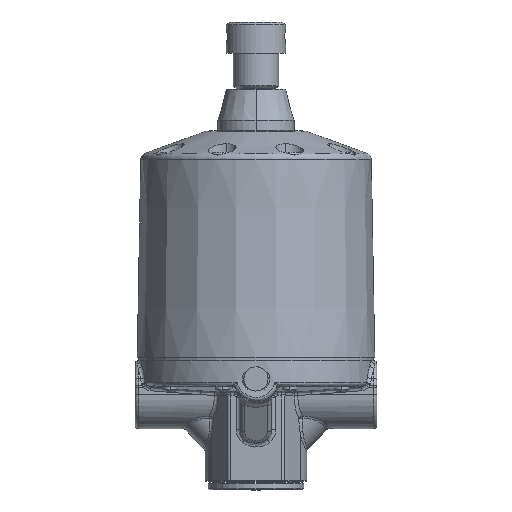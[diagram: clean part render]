
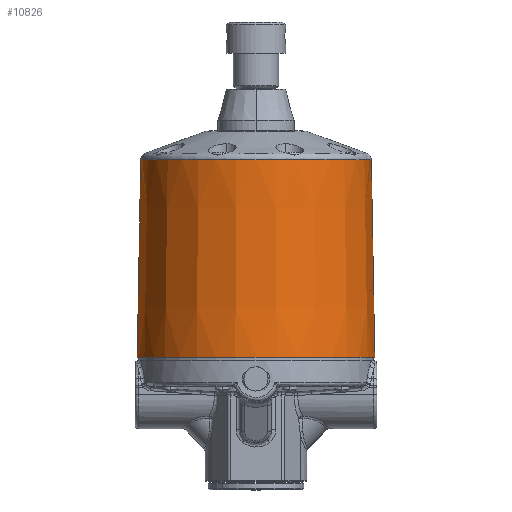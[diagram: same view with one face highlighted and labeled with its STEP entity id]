
A CAD part, top view. The second image highlights one B-rep face of the part: STEP entity #10826.
In plain terms, the highlighted conical face has half-angle 1 degrees and reference radius 41.347 mm.
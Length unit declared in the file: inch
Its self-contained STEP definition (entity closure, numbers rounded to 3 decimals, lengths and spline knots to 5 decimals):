
#9964=CARTESIAN_POINT('',(1.63233,2.84154,0.));
#9977=CARTESIAN_POINT('',(1.63009,2.96949,0.));
#9979=CARTESIAN_POINT('',(1.63009,2.96949,0.));
#9980=CARTESIAN_POINT('',(1.63009,2.96949,0.00623));
#9981=CARTESIAN_POINT('',(1.63005,2.96774,0.01815));
#9982=CARTESIAN_POINT('',(1.62991,2.96014,0.03499));
#9983=CARTESIAN_POINT('',(1.62975,2.94794,0.04903));
#9984=CARTESIAN_POINT('',(1.62968,2.9326,0.05893));
#9985=CARTESIAN_POINT('',(1.62979,2.91465,0.0642));
#9986=CARTESIAN_POINT('',(1.6301,2.89644,0.06421));
#9987=CARTESIAN_POINT('',(1.63062,2.87849,0.05896));
#9988=CARTESIAN_POINT('',(1.63123,2.86311,0.04905));
#9989=CARTESIAN_POINT('',(1.63181,2.85092,0.03505));
#9990=CARTESIAN_POINT('',(1.63223,2.84329,0.01819));
#9991=CARTESIAN_POINT('',(1.63233,2.84154,0.00625));
#9992=CARTESIAN_POINT('',(1.63233,2.84154,0.));
#9994=DIRECTION('',(-0.017,1.,0.));
#9995=VECTOR('',#9994,1.1173);
#9996=CARTESIAN_POINT('',(1.65183,1.72441,0.));
#9997=LINE('',#9996,#9995);
#9998=DIRECTION('',(0.017,1.,0.));
#9999=VECTOR('',#9998,2.74984);
#10000=CARTESIAN_POINT('',(-1.65183,1.72441,0.));
#10001=LINE('',#10000,#9999);
#10002=DIRECTION('',(-0.017,1.,0.));
#10003=VECTOR('',#10002,1.50457);
#10004=CARTESIAN_POINT('',(1.63009,2.96949,0.));
#10005=LINE('',#10004,#10003);
#10011=CARTESIAN_POINT('',(0.,1.72441,0.));
#10012=DIRECTION('',(0.,-1.,0.));
#10013=DIRECTION('',(1.,0.,0.));
#10014=AXIS2_PLACEMENT_3D('',#10011,#10012,#10013);
#10032=CARTESIAN_POINT('',(0.,4.47383,0.));
#10033=DIRECTION('',(0.,1.,0.));
#10034=DIRECTION('',(-1.,0.,0.));
#10035=AXIS2_PLACEMENT_3D('',#10032,#10033,#10034);
#10752=CARTESIAN_POINT('',(-1.65183,1.72441,0.));
#10753=CARTESIAN_POINT('',(1.65183,1.72441,0.));
#10754=VERTEX_POINT('',#10752);
#10755=VERTEX_POINT('',#10753);
#10756=CARTESIAN_POINT('',(-1.60383,4.47383,0.));
#10757=CARTESIAN_POINT('',(1.60383,4.47383,0.));
#10758=VERTEX_POINT('',#10756);
#10759=VERTEX_POINT('',#10757);
#10788=VERTEX_POINT('',#9977);
#10789=VERTEX_POINT('',#9964);
#10810=CARTESIAN_POINT('',(0.,3.09912,0.));
#10811=DIRECTION('',(0.,-1.,0.));
#10812=DIRECTION('',(1.,0.,0.));
#10813=AXIS2_PLACEMENT_3D('',#10810,#10811,#10812);
#10814=CONICAL_SURFACE('',#10813,1.62783,1.);
#10816=ORIENTED_EDGE('',*,*,#10815,.T.);
#10817=ORIENTED_EDGE('',*,*,#10805,.F.);
#10819=ORIENTED_EDGE('',*,*,#10818,.T.);
#10820=ORIENTED_EDGE('',*,*,#10801,.T.);
#10822=ORIENTED_EDGE('',*,*,#10821,.T.);
#10823=ORIENTED_EDGE('',*,*,#10797,.F.);
#10824=EDGE_LOOP('',(#10816,#10817,#10819,#10820,#10822,#10823));
#10825=FACE_OUTER_BOUND('',#10824,.F.);
#10826=ADVANCED_FACE('',(#10825),#10814,.T.);
#9993=B_SPLINE_CURVE_WITH_KNOTS('',3,(#9979,#9980,#9981,#9982,#9983,#9984,#9985,
#9986,#9987,#9988,#9989,#9990,#9991,#9992),.UNSPECIFIED.,.F.,.F.,(4,1,1,1,1,1,1,
1,1,1,1,4),(0.,0.09091,0.18182,0.27273,
0.36364,0.45455,0.54545,0.63636,
0.72727,0.81818,0.90909,1.),.UNSPECIFIED.);
#10015=CIRCLE('',#10014,1.65183);
#10036=CIRCLE('',#10035,1.60383);
#10797=EDGE_CURVE('',#10788,#10759,#10005,.T.);
#10801=EDGE_CURVE('',#10754,#10758,#10001,.T.);
#10805=EDGE_CURVE('',#10755,#10789,#9997,.T.);
#10815=EDGE_CURVE('',#10788,#10789,#9993,.T.);
#10818=EDGE_CURVE('',#10755,#10754,#10015,.T.);
#10821=EDGE_CURVE('',#10758,#10759,#10036,.T.);
